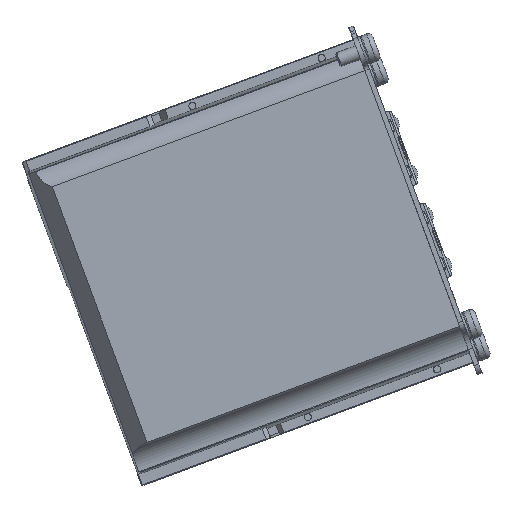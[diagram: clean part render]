
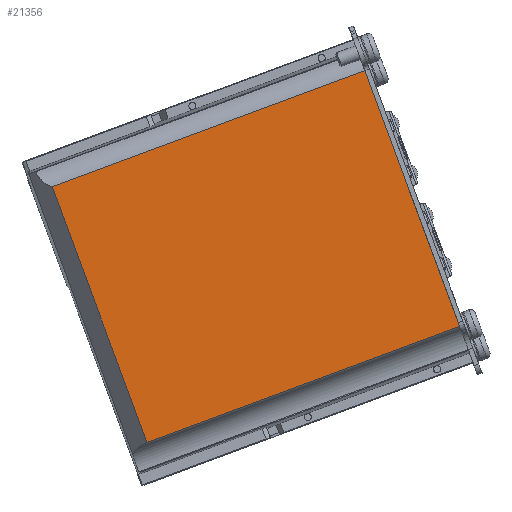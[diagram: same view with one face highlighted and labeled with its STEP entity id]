
A CAD part, top view. The second image highlights one B-rep face of the part: STEP entity #21356.
In plain terms, the highlighted planar face has unit normal (0, 0, 1).
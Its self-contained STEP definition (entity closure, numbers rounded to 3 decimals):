
#2322=LINE('',#36207,#4560);
#2324=LINE('',#36213,#4562);
#2325=LINE('',#36215,#4563);
#2326=LINE('',#36216,#4564);
#4560=VECTOR('',#26979,10.);
#4562=VECTOR('',#26985,10.);
#4563=VECTOR('',#26986,10.);
#4564=VECTOR('',#26987,10.);
#6113=FACE_OUTER_BOUND('',#7289,.T.);
#7289=EDGE_LOOP('',(#17341,#17342,#17343,#17344));
#9677=VERTEX_POINT('',#36204);
#9678=VERTEX_POINT('',#36206);
#9680=VERTEX_POINT('',#36212);
#9681=VERTEX_POINT('',#36214);
#12396=EDGE_CURVE('',#9677,#9678,#2322,.T.);
#12399=EDGE_CURVE('',#9680,#9677,#2324,.T.);
#12400=EDGE_CURVE('',#9680,#9681,#2325,.T.);
#12401=EDGE_CURVE('',#9681,#9678,#2326,.T.);
#17341=ORIENTED_EDGE('',*,*,#12396,.F.);
#17342=ORIENTED_EDGE('',*,*,#12399,.F.);
#17343=ORIENTED_EDGE('',*,*,#12400,.T.);
#17344=ORIENTED_EDGE('',*,*,#12401,.T.);
#19734=PLANE('',#22810);
#21356=ADVANCED_FACE('',(#6113),#19734,.T.);
#22810=AXIS2_PLACEMENT_3D('',#36211,#26983,#26984);
#26979=DIRECTION('',(-0.348,0.938,0.));
#26983=DIRECTION('center_axis',(0.,0.,
1.));
#26984=DIRECTION('ref_axis',(-0.938,-0.348,0.));
#26985=DIRECTION('',(-0.938,-0.348,0.));
#26986=DIRECTION('',(-0.348,0.938,0.));
#26987=DIRECTION('',(-0.938,-0.348,0.));
#36204=CARTESIAN_POINT('',(-66.051,-62.207,9.136));
#36206=CARTESIAN_POINT('',(-85.795,-8.975,9.136));
#36207=CARTESIAN_POINT('',(-80.743,-22.596,9.136));
#36211=CARTESIAN_POINT('Origin',(-20.7,15.168,9.136));
#36212=CARTESIAN_POINT('',(-0.957,-38.065,9.136));
#36213=CARTESIAN_POINT('',(-0.957,-38.065,9.136));
#36214=CARTESIAN_POINT('',(-20.7,15.168,9.136));
#36215=CARTESIAN_POINT('',(-0.957,-38.065,9.136));
#36216=CARTESIAN_POINT('',(-20.7,15.168,9.136));
